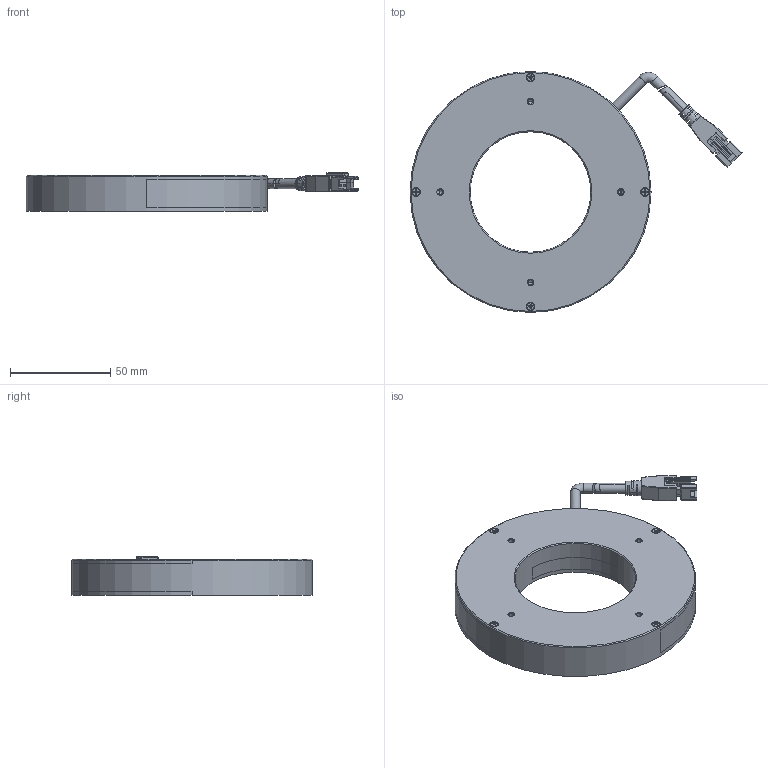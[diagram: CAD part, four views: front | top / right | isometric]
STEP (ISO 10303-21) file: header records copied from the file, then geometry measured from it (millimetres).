
FILE_DESCRIPTION((''),'2;1');
FILE_NAME('MV-LRDS-120-90-X_ASM','2023-09-15T14:08:30',('qiaoxuan5'),(''),'CREO PARAMETRIC BY PTC INC, 2020044','CREO PARAMETRIC BY PTC INC, 2020044','');
FILE_SCHEMA(('CONFIG_CONTROL_DESIGN','SHAPE_APPEARANCE_LAYERS_GROUPS'));
Length unit declared in the file: millimetre
Products named in the file (1): MV-LRDS-120-90-X_ASM
Bounding box: 165.3 x 120 x 19.2 mm (x, y, z)
Volume: 147310 mm3; surface area: 48392.8 mm2
Topology: 2 solids, 10 shells, 511 faces, 1281 edges, 790 vertices
Faces by surface type: plane 267, cylinder 150, cone 58, torus 18, sphere 8, bspline 8, extrusion 2
Entity records: 16519 total; most frequent: CARTESIAN_POINT 3396, DIRECTION 2591, ORIENTED_EDGE 2514, EDGE_CURVE 1257, AXIS2_PLACEMENT_3D 908, VERTEX_POINT 790, VECTOR 775, LINE 773
